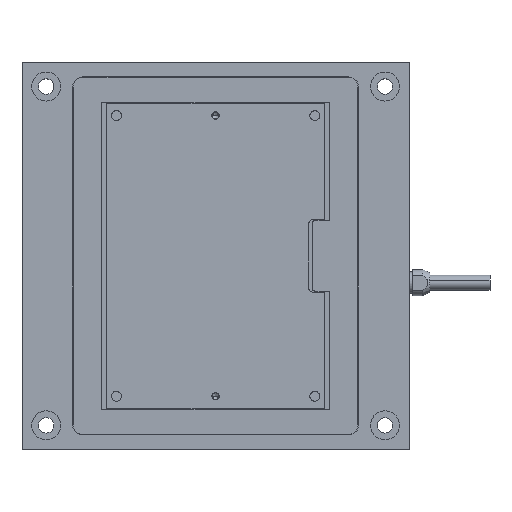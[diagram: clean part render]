
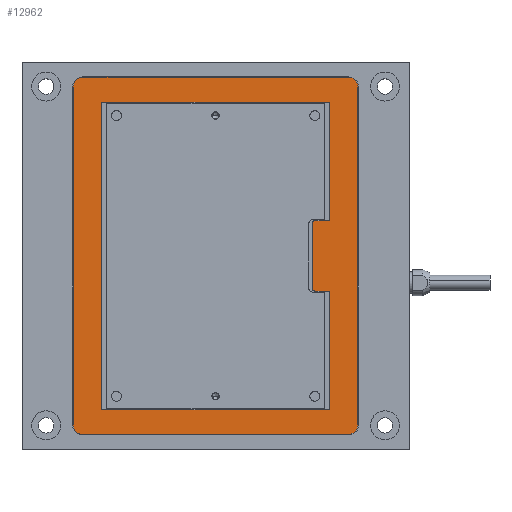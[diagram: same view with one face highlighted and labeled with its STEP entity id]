
A CAD part, top view. The second image highlights one B-rep face of the part: STEP entity #12962.
In plain terms, the highlighted planar face has unit normal (0, 0, 1).
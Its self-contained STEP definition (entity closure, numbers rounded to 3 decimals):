
#736 = DIRECTION ( 'NONE',  ( 0., -1., 0. ) ) ;
#737 = CARTESIAN_POINT ( 'NONE',  ( -27.4, 36.9, 16.45 ) ) ;
#741 = DIRECTION ( 'NONE',  ( -1., 0., 0. ) ) ;
#742 = CARTESIAN_POINT ( 'NONE',  ( -29.4, 34.9, 16.45 ) ) ;
#743 = CARTESIAN_POINT ( 'NONE',  ( 27.4, 34.9, 16.45 ) ) ;
#744 = DIRECTION ( 'NONE',  ( 0., 0., 1. ) ) ;
#745 = DIRECTION ( 'NONE',  ( -1., 0., 0. ) ) ;
#746 = CARTESIAN_POINT ( 'NONE',  ( -27.4, -36.9, 16.45 ) ) ;
#747 = DIRECTION ( 'NONE',  ( 1., 0., 0. ) ) ;
#748 = CARTESIAN_POINT ( 'NONE',  ( -27.4, 34.9, 16.45 ) ) ;
#749 = DIRECTION ( 'NONE',  ( 0., 0., 1. ) ) ;
#750 = DIRECTION ( 'NONE',  ( 1., 0., 0. ) ) ;
#751 = CARTESIAN_POINT ( 'NONE',  ( 29.4, 34.9, 16.45 ) ) ;
#752 = DIRECTION ( 'NONE',  ( 0., 1., 0. ) ) ;
#753 = CARTESIAN_POINT ( 'NONE',  ( -27.4, -34.9, 16.45 ) ) ;
#754 = DIRECTION ( 'NONE',  ( 0., 0., 1. ) ) ;
#755 = DIRECTION ( 'NONE',  ( -1., 0., 0. ) ) ;
#756 = CARTESIAN_POINT ( 'NONE',  ( -23.55, 31.8, 16.45 ) ) ;
#757 = CARTESIAN_POINT ( 'NONE',  ( -23.55, 31.8, 16.45 ) ) ;
#758 = CARTESIAN_POINT ( 'NONE',  ( 27.4, -34.9, 16.45 ) ) ;
#759 = DIRECTION ( 'NONE',  ( 0., 0., 1. ) ) ;
#760 = DIRECTION ( 'NONE',  ( 1., 0., 0. ) ) ;
#761 = CARTESIAN_POINT ( 'NONE',  ( -23.55, -31.8, 16.45 ) ) ;
#762 = CARTESIAN_POINT ( 'NONE',  ( 23.55, 31.8, 16.45 ) ) ;
#763 = DIRECTION ( 'NONE',  ( 1., 0., 0. ) ) ;
#764 = DIRECTION ( 'NONE',  ( 0., -1., 0. ) ) ;
#765 = CARTESIAN_POINT ( 'NONE',  ( 23.55, 7.25, 16.45 ) ) ;
#766 = DIRECTION ( 'NONE',  ( -1., 0., 0. ) ) ;
#767 = DIRECTION ( 'NONE',  ( 0., 1., 0. ) ) ;
#768 = DIRECTION ( 'NONE',  ( 1., 0., 0. ) ) ;
#769 = DIRECTION ( 'NONE',  ( 0., 1., 0. ) ) ;
#770 = CARTESIAN_POINT ( 'NONE',  ( 20., 6.75, 16.45 ) ) ;
#771 = CARTESIAN_POINT ( 'NONE',  ( 20.5, 6.75, 16.45 ) ) ;
#772 = DIRECTION ( 'NONE',  ( 0., 0., -1. ) ) ;
#773 = DIRECTION ( 'NONE',  ( 1., 0., 0. ) ) ;
#774 = DIRECTION ( 'NONE',  ( -1., 0., 0. ) ) ;
#775 = CARTESIAN_POINT ( 'NONE',  ( 23.55, -7.25, 16.45 ) ) ;
#776 = CARTESIAN_POINT ( 'NONE',  ( 20.5, -7.25, 16.45 ) ) ;
#777 = CARTESIAN_POINT ( 'NONE',  ( 20.5, -6.75, 16.45 ) ) ;
#778 = DIRECTION ( 'NONE',  ( 0., 0., -1. ) ) ;
#779 = DIRECTION ( 'NONE',  ( 1., 0., 0. ) ) ;
#780 = DIRECTION ( 'NONE',  ( 0., 1., 0. ) ) ;
#1058 = EDGE_CURVE ( 'NONE', #5284, #5282, #11766, .T. ) ;
#1059 = EDGE_CURVE ( 'NONE', #5285, #5284, #11767, .T. ) ;
#1060 = EDGE_CURVE ( 'NONE', #5282, #5281, #11770, .T. ) ;
#1061 = EDGE_CURVE ( 'NONE', #5281, #5280, #11771, .T. ) ;
#1062 = EDGE_CURVE ( 'NONE', #5280, #5279, #11772, .T. ) ;
#1063 = EDGE_CURVE ( 'NONE', #5279, #5278, #11774, .T. ) ;
#1064 = EDGE_CURVE ( 'NONE', #5278, #5277, #11775, .T. ) ;
#1065 = EDGE_CURVE ( 'NONE', #5277, #5285, #11777, .T. ) ;
#1066 = EDGE_CURVE ( 'NONE', #5304, #5276, #11778, .T. ) ;
#1067 = EDGE_CURVE ( 'NONE', #5298, #5304, #11768, .T. ) ;
#1068 = EDGE_CURVE ( 'NONE', #5275, #5298, #11780, .T. ) ;
#1069 = EDGE_CURVE ( 'NONE', #5297, #5275, #11782, .T. ) ;
#1070 = EDGE_CURVE ( 'NONE', #5283, #5297, #11784, .T. ) ;
#1071 = EDGE_CURVE ( 'NONE', #5274, #5283, #11786, .T. ) ;
#1072 = EDGE_CURVE ( 'NONE', #5273, #5274, #11788, .T. ) ;
#1073 = EDGE_CURVE ( 'NONE', #5272, #5273, #11790, .T. ) ;
#1074 = EDGE_CURVE ( 'NONE', #5271, #5272, #11791, .T. ) ;
#1075 = EDGE_CURVE ( 'NONE', #5276, #5271, #11793, .T. ) ;
#4230 = AXIS2_PLACEMENT_3D ( 'NONE', #13684, #13689, #13690 ) ;
#5213 = ORIENTED_EDGE ( 'NONE', *, *, #1059, .T. ) ;
#5214 = ORIENTED_EDGE ( 'NONE', *, *, #1058, .T. ) ;
#5215 = ORIENTED_EDGE ( 'NONE', *, *, #1060, .T. ) ;
#5216 = ORIENTED_EDGE ( 'NONE', *, *, #1061, .T. ) ;
#5217 = ORIENTED_EDGE ( 'NONE', *, *, #1062, .T. ) ;
#5218 = ORIENTED_EDGE ( 'NONE', *, *, #1063, .T. ) ;
#5219 = ORIENTED_EDGE ( 'NONE', *, *, #1064, .T. ) ;
#5220 = ORIENTED_EDGE ( 'NONE', *, *, #1065, .T. ) ;
#5221 = ORIENTED_EDGE ( 'NONE', *, *, #1066, .F. ) ;
#5222 = ORIENTED_EDGE ( 'NONE', *, *, #1067, .F. ) ;
#5223 = ORIENTED_EDGE ( 'NONE', *, *, #1068, .F. ) ;
#5224 = ORIENTED_EDGE ( 'NONE', *, *, #1069, .F. ) ;
#5225 = ORIENTED_EDGE ( 'NONE', *, *, #1070, .F. ) ;
#5226 = ORIENTED_EDGE ( 'NONE', *, *, #1071, .F. ) ;
#5227 = ORIENTED_EDGE ( 'NONE', *, *, #1072, .F. ) ;
#5228 = ORIENTED_EDGE ( 'NONE', *, *, #1073, .F. ) ;
#5229 = ORIENTED_EDGE ( 'NONE', *, *, #1074, .F. ) ;
#5230 = ORIENTED_EDGE ( 'NONE', *, *, #1075, .F. ) ;
#5271 = VERTEX_POINT ( 'NONE', #16641 ) ;
#5272 = VERTEX_POINT ( 'NONE', #16642 ) ;
#5273 = VERTEX_POINT ( 'NONE', #16643 ) ;
#5274 = VERTEX_POINT ( 'NONE', #16644 ) ;
#5275 = VERTEX_POINT ( 'NONE', #16645 ) ;
#5276 = VERTEX_POINT ( 'NONE', #16646 ) ;
#5277 = VERTEX_POINT ( 'NONE', #16647 ) ;
#5278 = VERTEX_POINT ( 'NONE', #16648 ) ;
#5279 = VERTEX_POINT ( 'NONE', #16649 ) ;
#5280 = VERTEX_POINT ( 'NONE', #16650 ) ;
#5281 = VERTEX_POINT ( 'NONE', #16651 ) ;
#5282 = VERTEX_POINT ( 'NONE', #16652 ) ;
#5283 = VERTEX_POINT ( 'NONE', #16653 ) ;
#5284 = VERTEX_POINT ( 'NONE', #16654 ) ;
#5285 = VERTEX_POINT ( 'NONE', #16655 ) ;
#5297 = VERTEX_POINT ( 'NONE', #16667 ) ;
#5298 = VERTEX_POINT ( 'NONE', #16668 ) ;
#5304 = VERTEX_POINT ( 'NONE', #16674 ) ;
#7254 = FACE_OUTER_BOUND ( 'NONE', #16137, .T. ) ;
#7259 = FACE_BOUND ( 'NONE', #16135, .T. ) ;
#11766 = LINE ( 'NONE', #737, #11769 ) ;
#11767 = CIRCLE ( 'NONE', #14679, 2. ) ;
#11768 = LINE ( 'NONE', #757, #11783 ) ;
#11769 = VECTOR ( 'NONE', #741, 1000. ) ;
#11770 = CIRCLE ( 'NONE', #14680, 2. ) ;
#11771 = LINE ( 'NONE', #742, #11773 ) ;
#11772 = CIRCLE ( 'NONE', #14681, 2. ) ;
#11773 = VECTOR ( 'NONE', #736, 1000. ) ;
#11774 = LINE ( 'NONE', #746, #11776 ) ;
#11775 = CIRCLE ( 'NONE', #14682, 2. ) ;
#11776 = VECTOR ( 'NONE', #747, 1000. ) ;
#11777 = LINE ( 'NONE', #751, #11779 ) ;
#11778 = LINE ( 'NONE', #761, #11781 ) ;
#11779 = VECTOR ( 'NONE', #752, 1000. ) ;
#11780 = LINE ( 'NONE', #756, #11785 ) ;
#11781 = VECTOR ( 'NONE', #763, 1000. ) ;
#11782 = LINE ( 'NONE', #762, #11787 ) ;
#11783 = VECTOR ( 'NONE', #764, 1000. ) ;
#11784 = LINE ( 'NONE', #765, #11789 ) ;
#11785 = VECTOR ( 'NONE', #766, 1000. ) ;
#11786 = CIRCLE ( 'NONE', #14683, 0.5 ) ;
#11787 = VECTOR ( 'NONE', #767, 1000. ) ;
#11788 = LINE ( 'NONE', #770, #11792 ) ;
#11789 = VECTOR ( 'NONE', #768, 1000. ) ;
#11790 = CIRCLE ( 'NONE', #14684, 0.5 ) ;
#11791 = LINE ( 'NONE', #776, #11795 ) ;
#11792 = VECTOR ( 'NONE', #769, 1000. ) ;
#11793 = LINE ( 'NONE', #775, #11797 ) ;
#11795 = VECTOR ( 'NONE', #774, 1000. ) ;
#11797 = VECTOR ( 'NONE', #780, 1000. ) ;
#12962 = ADVANCED_FACE ( 'NONE', ( #7254, #7259 ), #13687, .F. ) ;
#13684 = CARTESIAN_POINT ( 'NONE',  ( 27.4, 34.9, 16.45 ) ) ;
#13687 = PLANE ( 'NONE',  #4230 ) ;
#13689 = DIRECTION ( 'NONE',  ( 0., 0., -1. ) ) ;
#13690 = DIRECTION ( 'NONE',  ( -1., 0., 0. ) ) ;
#14679 = AXIS2_PLACEMENT_3D ( 'NONE', #743, #744, #745 ) ;
#14680 = AXIS2_PLACEMENT_3D ( 'NONE', #748, #749, #750 ) ;
#14681 = AXIS2_PLACEMENT_3D ( 'NONE', #753, #754, #755 ) ;
#14682 = AXIS2_PLACEMENT_3D ( 'NONE', #758, #759, #760 ) ;
#14683 = AXIS2_PLACEMENT_3D ( 'NONE', #771, #772, #773 ) ;
#14684 = AXIS2_PLACEMENT_3D ( 'NONE', #777, #778, #779 ) ;
#16135 = EDGE_LOOP ( 'NONE', ( #5221, #5222, #5223, #5224, #5225, #5226, #5227, #5228, #5229, #5230 ) ) ;
#16137 = EDGE_LOOP ( 'NONE', ( #5213, #5214, #5215, #5216, #5217, #5218, #5219, #5220 ) ) ;
#16641 = CARTESIAN_POINT ( 'NONE',  ( 23.55, -7.25, 16.45 ) ) ;
#16642 = CARTESIAN_POINT ( 'NONE',  ( 20.5, -7.25, 16.45 ) ) ;
#16643 = CARTESIAN_POINT ( 'NONE',  ( 20., -6.75, 16.45 ) ) ;
#16644 = CARTESIAN_POINT ( 'NONE',  ( 20., 6.75, 16.45 ) ) ;
#16645 = CARTESIAN_POINT ( 'NONE',  ( 23.55, 31.8, 16.45 ) ) ;
#16646 = CARTESIAN_POINT ( 'NONE',  ( 23.55, -31.8, 16.45 ) ) ;
#16647 = CARTESIAN_POINT ( 'NONE',  ( 29.4, -34.9, 16.45 ) ) ;
#16648 = CARTESIAN_POINT ( 'NONE',  ( 27.4, -36.9, 16.45 ) ) ;
#16649 = CARTESIAN_POINT ( 'NONE',  ( -27.4, -36.9, 16.45 ) ) ;
#16650 = CARTESIAN_POINT ( 'NONE',  ( -29.4, -34.9, 16.45 ) ) ;
#16651 = CARTESIAN_POINT ( 'NONE',  ( -29.4, 34.9, 16.45 ) ) ;
#16652 = CARTESIAN_POINT ( 'NONE',  ( -27.4, 36.9, 16.45 ) ) ;
#16653 = CARTESIAN_POINT ( 'NONE',  ( 20.5, 7.25, 16.45 ) ) ;
#16654 = CARTESIAN_POINT ( 'NONE',  ( 27.4, 36.9, 16.45 ) ) ;
#16655 = CARTESIAN_POINT ( 'NONE',  ( 29.4, 34.9, 16.45 ) ) ;
#16667 = CARTESIAN_POINT ( 'NONE',  ( 23.55, 7.25, 16.45 ) ) ;
#16668 = CARTESIAN_POINT ( 'NONE',  ( -23.55, 31.8, 16.45 ) ) ;
#16674 = CARTESIAN_POINT ( 'NONE',  ( -23.55, -31.8, 16.45 ) ) ;
